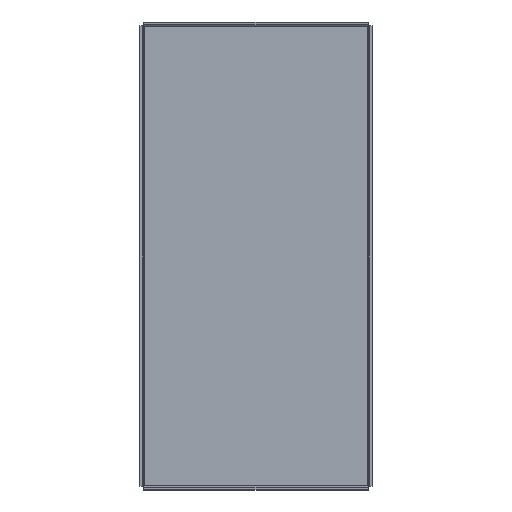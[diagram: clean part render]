
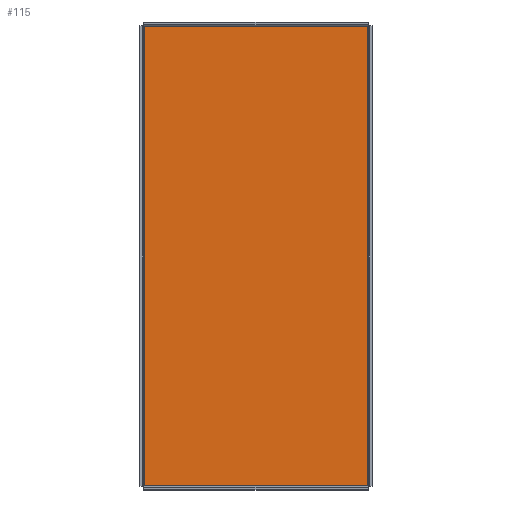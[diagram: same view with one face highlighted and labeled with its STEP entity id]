
A CAD part, top view. The second image highlights one B-rep face of the part: STEP entity #115.
In plain terms, the highlighted planar face has unit normal (0, 0, 1).
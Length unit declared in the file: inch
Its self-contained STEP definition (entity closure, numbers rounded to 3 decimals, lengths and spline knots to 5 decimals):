
#115=ADVANCED_FACE('',(#217),#1389,.T.);
#217=FACE_OUTER_BOUND('',#319,.T.);
#319=EDGE_LOOP('',(#740,#741,#742,#743));
#740=ORIENTED_EDGE('',*,*,#881,.T.);
#741=ORIENTED_EDGE('',*,*,#920,.T.);
#742=ORIENTED_EDGE('',*,*,#939,.T.);
#743=ORIENTED_EDGE('',*,*,#901,.T.);
#881=EDGE_CURVE('',#1283,#1282,#1125,.T.);
#901=EDGE_CURVE('',#1292,#1283,#1145,.T.);
#920=EDGE_CURVE('',#1282,#1300,#1164,.T.);
#939=EDGE_CURVE('',#1300,#1292,#1183,.T.);
#1125=B_SPLINE_CURVE_WITH_KNOTS('',1,(#2435,#2436),.UNSPECIFIED.,.F.,.F.,
(2,2),(-22.71373,0.),.UNSPECIFIED.);
#1145=B_SPLINE_CURVE_WITH_KNOTS('',1,(#2483,#2484),.UNSPECIFIED.,.F.,.F.,
(2,2),(-46.71373,0.),.UNSPECIFIED.);
#1164=B_SPLINE_CURVE_WITH_KNOTS('',1,(#2529,#2530),.UNSPECIFIED.,.F.,.F.,
(2,2),(-46.71373,0.),.UNSPECIFIED.);
#1183=B_SPLINE_CURVE_WITH_KNOTS('',1,(#2575,#2576),.UNSPECIFIED.,.F.,.F.,
(2,2),(-22.71373,0.),.UNSPECIFIED.);
#1282=VERTEX_POINT('',#2099);
#1283=VERTEX_POINT('',#2100);
#1292=VERTEX_POINT('',#2109);
#1300=VERTEX_POINT('',#2117);
#1389=PLANE('',#1598);
#1598=AXIS2_PLACEMENT_3D('',#2016,#1727,$);
#1727=DIRECTION('',(0.,0.,1.));
#2016=CARTESIAN_POINT('',(-2.24296,-4.64296,0.04));
#2099=CARTESIAN_POINT('',(0.03314,46.74686,0.04));
#2100=CARTESIAN_POINT('',(22.74686,46.74686,0.04));
#2109=CARTESIAN_POINT('',(22.74686,0.03314,0.04));
#2117=CARTESIAN_POINT('',(0.03314,0.03314,0.04));
#2435=CARTESIAN_POINT('',(22.74686,46.74686,0.04));
#2436=CARTESIAN_POINT('',(0.03314,46.74686,0.04));
#2483=CARTESIAN_POINT('',(22.74686,0.03314,0.04));
#2484=CARTESIAN_POINT('',(22.74686,46.74686,0.04));
#2529=CARTESIAN_POINT('',(0.03314,46.74686,0.04));
#2530=CARTESIAN_POINT('',(0.03314,0.03314,0.04));
#2575=CARTESIAN_POINT('',(0.03314,0.03314,0.04));
#2576=CARTESIAN_POINT('',(22.74686,0.03314,0.04));
